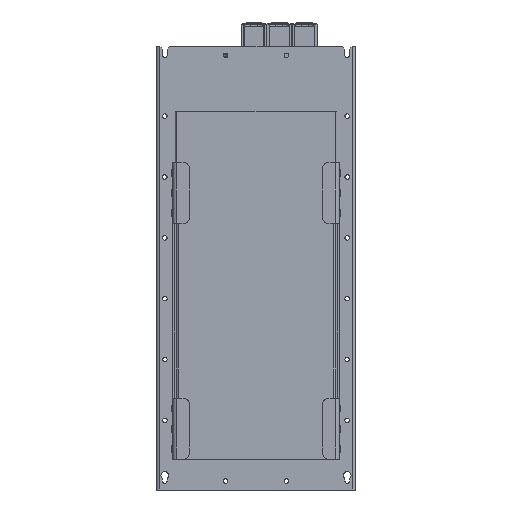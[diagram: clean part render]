
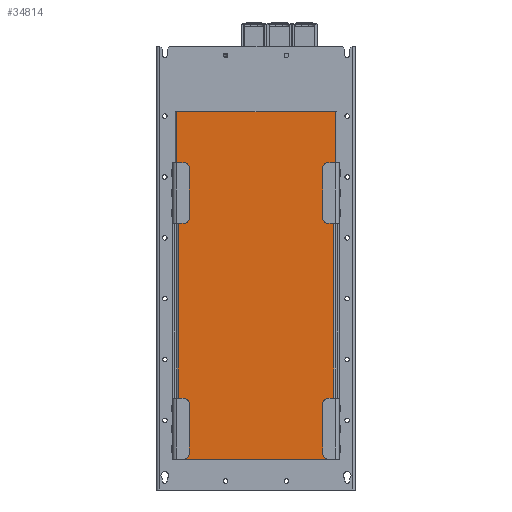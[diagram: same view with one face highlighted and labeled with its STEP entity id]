
A CAD part, front view. The second image highlights one B-rep face of the part: STEP entity #34814.
In plain terms, the highlighted planar face has unit normal (0, -1, 0).
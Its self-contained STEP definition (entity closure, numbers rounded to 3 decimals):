
#99 = CARTESIAN_POINT ( 'NONE',  ( -155.9, -125., 400. ) ) ;
#1896 = ORIENTED_EDGE ( 'NONE', *, *, #27628, .T. ) ;
#3035 = VERTEX_POINT ( 'NONE', #73737 ) ;
#3535 = ORIENTED_EDGE ( 'NONE', *, *, #27986, .T. ) ;
#5406 = CARTESIAN_POINT ( 'NONE',  ( -155.9, -125., 400. ) ) ;
#5760 = CARTESIAN_POINT ( 'NONE',  ( -159.4, -125., 500. ) ) ;
#6943 = LINE ( 'NONE', #59477, #14634 ) ;
#9011 = LINE ( 'NONE', #47778, #30258 ) ;
#9703 = VECTOR ( 'NONE', #36285, 1000. ) ;
#10865 = EDGE_LOOP ( 'NONE', ( #3535, #40359, #92258, #90000, #75591, #1896, #12377, #55495 ) ) ;
#12141 = LINE ( 'NONE', #5760, #53421 ) ;
#12377 = ORIENTED_EDGE ( 'NONE', *, *, #58345, .T. ) ;
#12553 = VECTOR ( 'NONE', #75713, 1000. ) ;
#12994 = DIRECTION ( 'NONE',  ( 0., -1., 0. ) ) ;
#14634 = VECTOR ( 'NONE', #36879, 1000. ) ;
#19053 = LINE ( 'NONE', #63751, #30524 ) ;
#20827 = DIRECTION ( 'NONE',  ( 0., 0., -1. ) ) ;
#21963 = EDGE_CURVE ( 'NONE', #95696, #48871, #57908, .T. ) ;
#22324 = CARTESIAN_POINT ( 'NONE',  ( -155.9, -125., 500. ) ) ;
#27462 = CARTESIAN_POINT ( 'NONE',  ( 155.9, -125., 400. ) ) ;
#27628 = EDGE_CURVE ( 'NONE', #70946, #50709, #9011, .T. ) ;
#27986 = EDGE_CURVE ( 'NONE', #48871, #80890, #6943, .T. ) ;
#28467 = VECTOR ( 'NONE', #42564, 1000. ) ;
#29514 = EDGE_CURVE ( 'NONE', #47020, #70946, #19053, .T. ) ;
#29683 = LINE ( 'NONE', #22324, #77315 ) ;
#30046 = LINE ( 'NONE', #60988, #12553 ) ;
#30258 = VECTOR ( 'NONE', #54668, 1000. ) ;
#30524 = VECTOR ( 'NONE', #42596, 1000. ) ;
#31400 = EDGE_CURVE ( 'NONE', #80890, #3035, #12141, .T. ) ;
#34242 = DIRECTION ( 'NONE',  ( -1., 0., 0. ) ) ;
#34814 = ADVANCED_FACE ( 'NONE', ( #37006 ), #67445, .T. ) ;
#36285 = DIRECTION ( 'NONE',  ( 1., 0., 0. ) ) ;
#36330 = VERTEX_POINT ( 'NONE', #99 ) ;
#36879 = DIRECTION ( 'NONE',  ( 0., 0., 1. ) ) ;
#37006 = FACE_OUTER_BOUND ( 'NONE', #10865, .T. ) ;
#37532 = DIRECTION ( 'NONE',  ( 0., 0., -1. ) ) ;
#40359 = ORIENTED_EDGE ( 'NONE', *, *, #31400, .T. ) ;
#41124 = LINE ( 'NONE', #87237, #28467 ) ;
#42564 = DIRECTION ( 'NONE',  ( 1., 0., 0. ) ) ;
#42596 = DIRECTION ( 'NONE',  ( 0., 0., -1. ) ) ;
#47020 = VERTEX_POINT ( 'NONE', #58739 ) ;
#47778 = CARTESIAN_POINT ( 'NONE',  ( -203.788, -125., -185. ) ) ;
#48871 = VERTEX_POINT ( 'NONE', #27462 ) ;
#50360 = EDGE_CURVE ( 'NONE', #36330, #47020, #41124, .T. ) ;
#50709 = VERTEX_POINT ( 'NONE', #90409 ) ;
#52917 = CARTESIAN_POINT ( 'NONE',  ( 155.9, -125., 500. ) ) ;
#53421 = VECTOR ( 'NONE', #34242, 1000. ) ;
#54668 = DIRECTION ( 'NONE',  ( 1., 0., 0. ) ) ;
#55495 = ORIENTED_EDGE ( 'NONE', *, *, #21963, .T. ) ;
#57908 = LINE ( 'NONE', #5406, #9703 ) ;
#58345 = EDGE_CURVE ( 'NONE', #50709, #95696, #30046, .T. ) ;
#58739 = CARTESIAN_POINT ( 'NONE',  ( -153., -125., 400. ) ) ;
#59477 = CARTESIAN_POINT ( 'NONE',  ( 155.9, -125., 400. ) ) ;
#60988 = CARTESIAN_POINT ( 'NONE',  ( 153., -125., -400. ) ) ;
#61194 = EDGE_CURVE ( 'NONE', #3035, #36330, #29683, .T. ) ;
#63751 = CARTESIAN_POINT ( 'NONE',  ( -153., -125., 400. ) ) ;
#66016 = CARTESIAN_POINT ( 'NONE',  ( 0., -125., 500. ) ) ;
#67445 = PLANE ( 'NONE',  #70194 ) ;
#70194 = AXIS2_PLACEMENT_3D ( 'NONE', #66016, #12994, #20827 ) ;
#70946 = VERTEX_POINT ( 'NONE', #89316 ) ;
#73737 = CARTESIAN_POINT ( 'NONE',  ( -155.9, -125., 500. ) ) ;
#75591 = ORIENTED_EDGE ( 'NONE', *, *, #29514, .T. ) ;
#75713 = DIRECTION ( 'NONE',  ( 0., 0., 1. ) ) ;
#77315 = VECTOR ( 'NONE', #37532, 1000. ) ;
#80890 = VERTEX_POINT ( 'NONE', #52917 ) ;
#86703 = CARTESIAN_POINT ( 'NONE',  ( 153., -125., 400. ) ) ;
#87237 = CARTESIAN_POINT ( 'NONE',  ( -155.9, -125., 400. ) ) ;
#89316 = CARTESIAN_POINT ( 'NONE',  ( -153., -125., -185. ) ) ;
#90000 = ORIENTED_EDGE ( 'NONE', *, *, #50360, .T. ) ;
#90409 = CARTESIAN_POINT ( 'NONE',  ( 153., -125., -185. ) ) ;
#92258 = ORIENTED_EDGE ( 'NONE', *, *, #61194, .T. ) ;
#95696 = VERTEX_POINT ( 'NONE', #86703 ) ;
